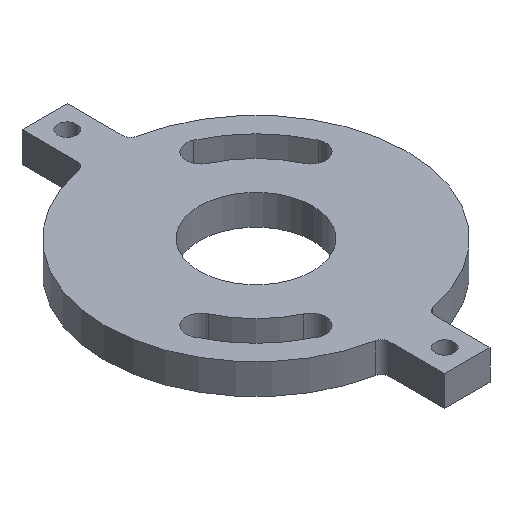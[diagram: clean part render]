
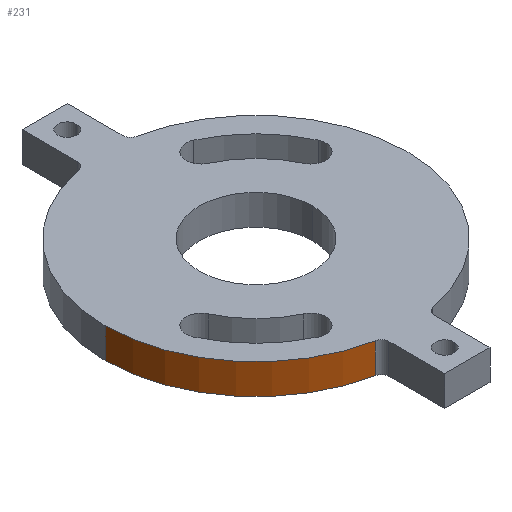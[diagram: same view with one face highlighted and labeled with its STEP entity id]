
A CAD part, isometric view. The second image highlights one B-rep face of the part: STEP entity #231.
In plain terms, the highlighted cylindrical face has radius 20 mm (diameter 40 mm), a partial arc.
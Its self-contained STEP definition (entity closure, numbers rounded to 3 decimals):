
#55 = DIRECTION ( 'NONE',  ( 0., 0., 1. ) ) ;
#81 = EDGE_CURVE ( 'NONE', #1005, #823, #495, .T. ) ;
#90 = CYLINDRICAL_SURFACE ( 'NONE', #901, 20. ) ;
#112 = DIRECTION ( 'NONE',  ( 0., 0., 1. ) ) ;
#141 = EDGE_CURVE ( 'NONE', #999, #600, #1215, .T. ) ;
#223 = DIRECTION ( 'NONE',  ( 0., 0., 1. ) ) ;
#231 = ADVANCED_FACE ( 'NONE', ( #904 ), #90, .T. ) ;
#260 = DIRECTION ( 'NONE',  ( 1., 0., 0. ) ) ;
#290 = CARTESIAN_POINT ( 'NONE',  ( -3.81, -19.634, 0. ) ) ;
#311 = CARTESIAN_POINT ( 'NONE',  ( 0., 0., 0. ) ) ;
#371 = CARTESIAN_POINT ( 'NONE',  ( -20., 0., 4. ) ) ;
#398 = CARTESIAN_POINT ( 'NONE',  ( -20., 0., 4. ) ) ;
#427 = EDGE_CURVE ( 'NONE', #823, #999, #447, .T. ) ;
#447 = CIRCLE ( 'NONE', #865, 20. ) ;
#488 = DIRECTION ( 'NONE',  ( -1., 0., 0. ) ) ;
#495 = LINE ( 'NONE', #398, #1154 ) ;
#565 = EDGE_CURVE ( 'NONE', #1005, #600, #635, .T. ) ;
#600 = VERTEX_POINT ( 'NONE', #925 ) ;
#635 = CIRCLE ( 'NONE', #1306, 20. ) ;
#679 = DIRECTION ( 'NONE',  ( 0., 0., -1. ) ) ;
#763 = VECTOR ( 'NONE', #112, 1000. ) ;
#804 = CARTESIAN_POINT ( 'NONE',  ( 0., 0., 4. ) ) ;
#823 = VERTEX_POINT ( 'NONE', #1251 ) ;
#826 = DIRECTION ( 'NONE',  ( 1., 0., 0. ) ) ;
#865 = AXIS2_PLACEMENT_3D ( 'NONE', #311, #223, #826 ) ;
#901 = AXIS2_PLACEMENT_3D ( 'NONE', #804, #679, #488 ) ;
#904 = FACE_OUTER_BOUND ( 'NONE', #993, .T. ) ;
#925 = CARTESIAN_POINT ( 'NONE',  ( -3.81, -19.634, 4. ) ) ;
#945 = ORIENTED_EDGE ( 'NONE', *, *, #141, .T. ) ;
#993 = EDGE_LOOP ( 'NONE', ( #1315, #1236, #1126, #945 ) ) ;
#999 = VERTEX_POINT ( 'NONE', #290 ) ;
#1005 = VERTEX_POINT ( 'NONE', #371 ) ;
#1120 = CARTESIAN_POINT ( 'NONE',  ( -3.81, -19.634, 4. ) ) ;
#1126 = ORIENTED_EDGE ( 'NONE', *, *, #427, .T. ) ;
#1154 = VECTOR ( 'NONE', #1190, 1000. ) ;
#1155 = CARTESIAN_POINT ( 'NONE',  ( 0., 0., 4. ) ) ;
#1190 = DIRECTION ( 'NONE',  ( 0., 0., -1. ) ) ;
#1215 = LINE ( 'NONE', #1120, #763 ) ;
#1236 = ORIENTED_EDGE ( 'NONE', *, *, #81, .T. ) ;
#1251 = CARTESIAN_POINT ( 'NONE',  ( -20., 0., 0. ) ) ;
#1306 = AXIS2_PLACEMENT_3D ( 'NONE', #1155, #55, #260 ) ;
#1315 = ORIENTED_EDGE ( 'NONE', *, *, #565, .F. ) ;
